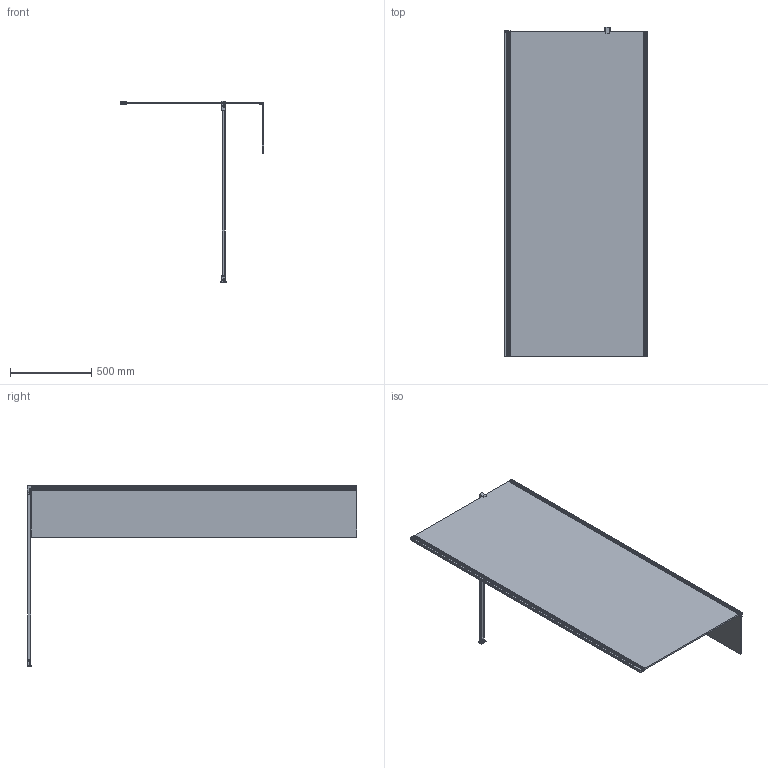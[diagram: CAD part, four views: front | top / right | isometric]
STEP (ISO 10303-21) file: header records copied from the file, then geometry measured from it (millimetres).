
FILE_DESCRIPTION(/* description */ (''),/* implementation_level */ '2;1');
FILE_NAME(/* name */ 'c:\worker\convert-fusion-oct-2018\tmp\job-1\33\output\files\98ab7a1e-3d98-4568-a699-08bdaeb49f97\4dd333ec-1754-49b8-9b89-15fe66901213.stp',/* time_stamp */ '2018-10-30T14:46:50+00:00',/* author */ (''),/* organization */ (''),/* preprocessor_version */ 'ST-DEVELOPER v17.2',/* originating_system */ 'Autodesk Translation Framework v7.6.0.251',/* authorisation */ '');
FILE_SCHEMA (('AUTOMOTIVE_DESIGN { 1 0 10303 214 3 1 1 }'));
Length unit declared in the file: millimetre
Products named in the file (1): DNR90X+DNR30X
Bounding box: 884.5 x 2024 x 1112.86 mm (x, y, z)
Volume: 22549251.2 mm3; surface area: 5953143.5 mm2
Topology: 16 solids, 16 shells, 867 faces, 2247 edges, 1410 vertices
Faces by surface type: cylinder 404, plane 382, torus 32, bspline 23, sphere 22, cone 4
Full cylindrical faces by diameter (mm): 3.5 x2, 6.048 x30, 6.908 x32, 7 x2
Entity records: 29946 total; most frequent: CARTESIAN_POINT 8520, DIRECTION 4525, ORIENTED_EDGE 4474, EDGE_CURVE 2237, AXIS2_PLACEMENT_3D 1561, VERTEX_POINT 1410, LINE 1403, VECTOR 1403
